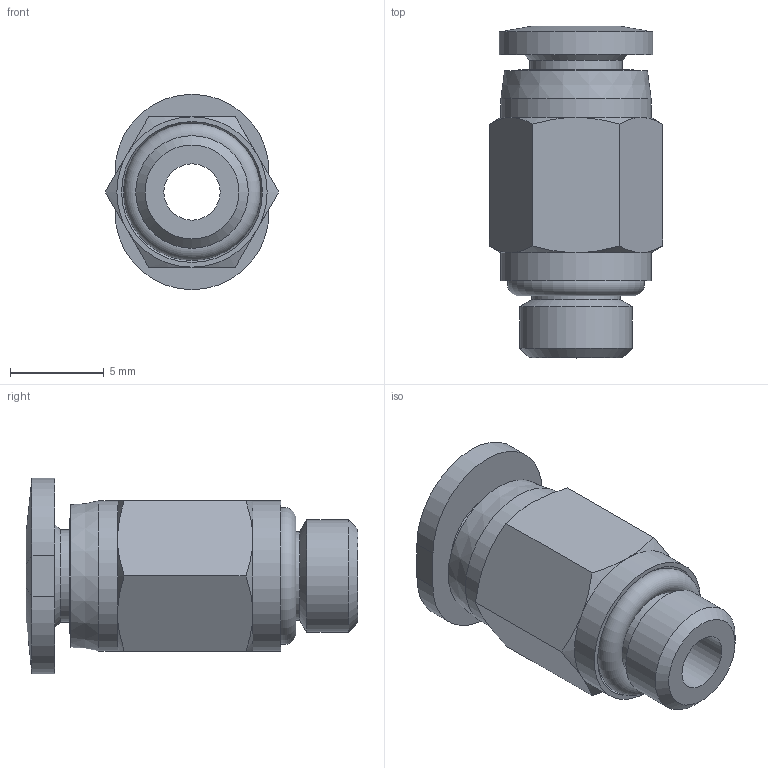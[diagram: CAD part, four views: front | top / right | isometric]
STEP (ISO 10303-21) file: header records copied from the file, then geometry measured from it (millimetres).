
FILE_DESCRIPTION((''),'2;1');
FILE_NAME('D:\INVENTOR\[New Inventor]\CDC Products 3D Ass''y\Compact One-Touch Fittings\Metric\PC-C\PC04-M6C.stp','2010-09-27T16:06:54',('Microsoft'),(''),'Autodesk Inventor 2008','Autodesk Inventor 2008','');
FILE_SCHEMA(('AUTOMOTIVE_DESIGN { 1 0 10303 214 1 1 1 1 }'));
Length unit declared in the file: millimetre
Products named in the file (1): PC04-M6C
Bounding box: 9.24 x 17.67 x 10.4 mm (x, y, z)
Volume: 620.3 mm3; surface area: 921.8 mm2
Topology: 2 solids, 2 shells, 52 faces, 107 edges, 62 vertices
Faces by surface type: plane 17, cone 17, cylinder 11, bspline 4, torus 3
Full cylindrical faces by diameter (mm): 3 x1, 4.2 x1, 4.7 x2, 4.9 x1, 6 x1, 6.1 x1, 8 x2
Entity records: 1440 total; most frequent: CARTESIAN_POINT 465, DIRECTION 200, ORIENTED_EDGE 172, AXIS2_PLACEMENT_3D 93, EDGE_CURVE 86, EDGE_LOOP 78, VERTEX_POINT 58, FACE_OUTER_BOUND 52
